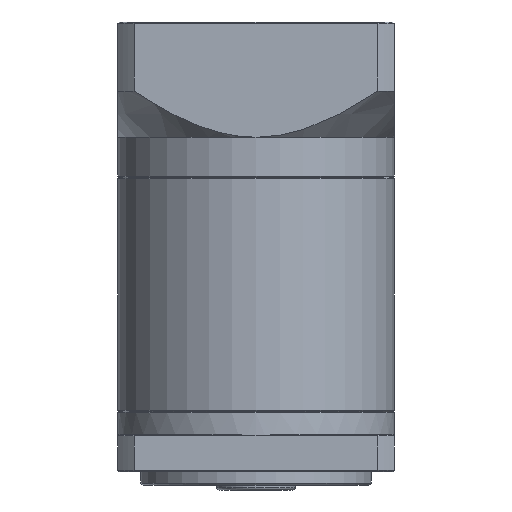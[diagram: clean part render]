
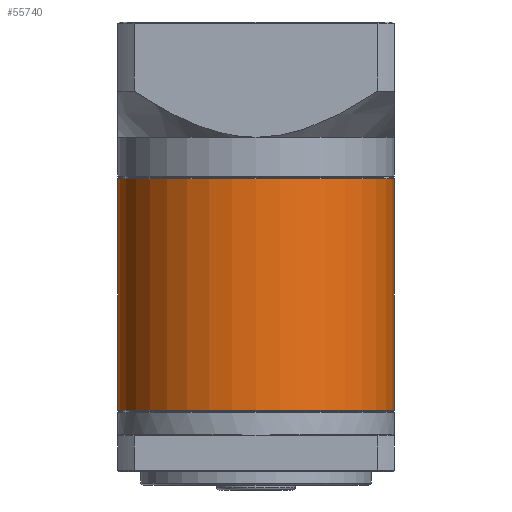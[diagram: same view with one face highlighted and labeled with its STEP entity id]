
A CAD part, front view. The second image highlights one B-rep face of the part: STEP entity #55740.
In plain terms, the highlighted cylindrical face has radius 30 mm (diameter 60 mm), a partial arc.
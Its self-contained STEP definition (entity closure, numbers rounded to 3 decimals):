
#808 = EDGE_CURVE ( 'NONE', #20329, #91570, #7325, .T. ) ;
#3352 = CARTESIAN_POINT ( 'NONE',  ( -17.069, 33.271, -83.632 ) ) ;
#7325 = CIRCLE ( 'NONE', #54626, 30. ) ;
#9047 = AXIS2_PLACEMENT_3D ( 'NONE', #71757, #42305, #94818 ) ;
#10602 = CARTESIAN_POINT ( 'NONE',  ( -17.069, 33.271, -33.082 ) ) ;
#14021 = VERTEX_POINT ( 'NONE', #46882 ) ;
#14980 = CARTESIAN_POINT ( 'NONE',  ( -47.069, 33.271, -33.332 ) ) ;
#20329 = VERTEX_POINT ( 'NONE', #72629 ) ;
#20842 = CARTESIAN_POINT ( 'NONE',  ( -77.069, 33.271, -33.082 ) ) ;
#21375 = VECTOR ( 'NONE', #26032, 1000. ) ;
#22491 = ORIENTED_EDGE ( 'NONE', *, *, #45646, .F. ) ;
#23780 = VECTOR ( 'NONE', #36841, 1000. ) ;
#26032 = DIRECTION ( 'NONE',  ( 0., 0., -1. ) ) ;
#26111 = LINE ( 'NONE', #20842, #23780 ) ;
#32302 = AXIS2_PLACEMENT_3D ( 'NONE', #14980, #59506, #66736 ) ;
#35097 = CARTESIAN_POINT ( 'NONE',  ( -47.069, 33.271, -83.632 ) ) ;
#36841 = DIRECTION ( 'NONE',  ( 0., 0., -1. ) ) ;
#40306 = EDGE_LOOP ( 'NONE', ( #22491, #68174, #54318, #93236 ) ) ;
#42305 = DIRECTION ( 'NONE',  ( 0., 0., -1. ) ) ;
#44095 = CIRCLE ( 'NONE', #32302, 30. ) ;
#45341 = FACE_OUTER_BOUND ( 'NONE', #40306, .T. ) ;
#45646 = EDGE_CURVE ( 'NONE', #64828, #91570, #82218, .T. ) ;
#46877 = CARTESIAN_POINT ( 'NONE',  ( -17.069, 33.271, -33.332 ) ) ;
#46882 = CARTESIAN_POINT ( 'NONE',  ( -77.069, 33.271, -33.332 ) ) ;
#54318 = ORIENTED_EDGE ( 'NONE', *, *, #68391, .T. ) ;
#54626 = AXIS2_PLACEMENT_3D ( 'NONE', #35097, #73343, #96371 ) ;
#55740 = ADVANCED_FACE ( 'NONE', ( #45341 ), #94606, .T. ) ;
#59506 = DIRECTION ( 'NONE',  ( 0., 0., -1. ) ) ;
#64828 = VERTEX_POINT ( 'NONE', #46877 ) ;
#66736 = DIRECTION ( 'NONE',  ( 1., 0., 0. ) ) ;
#68174 = ORIENTED_EDGE ( 'NONE', *, *, #74671, .T. ) ;
#68391 = EDGE_CURVE ( 'NONE', #14021, #20329, #26111, .T. ) ;
#71757 = CARTESIAN_POINT ( 'NONE',  ( -47.069, 33.271, -33.082 ) ) ;
#72629 = CARTESIAN_POINT ( 'NONE',  ( -77.069, 33.271, -83.632 ) ) ;
#73343 = DIRECTION ( 'NONE',  ( 0., 0., 1. ) ) ;
#74671 = EDGE_CURVE ( 'NONE', #64828, #14021, #44095, .T. ) ;
#82218 = LINE ( 'NONE', #10602, #21375 ) ;
#91570 = VERTEX_POINT ( 'NONE', #3352 ) ;
#93236 = ORIENTED_EDGE ( 'NONE', *, *, #808, .T. ) ;
#94606 = CYLINDRICAL_SURFACE ( 'NONE', #9047, 30. ) ;
#94818 = DIRECTION ( 'NONE',  ( -1., 0., 0. ) ) ;
#96371 = DIRECTION ( 'NONE',  ( 1., 0., 0. ) ) ;
